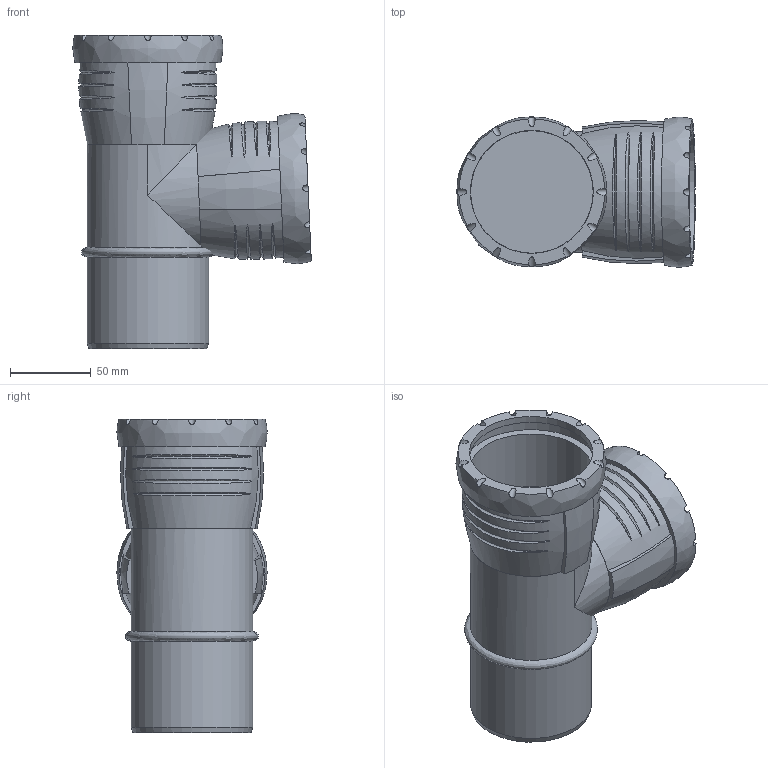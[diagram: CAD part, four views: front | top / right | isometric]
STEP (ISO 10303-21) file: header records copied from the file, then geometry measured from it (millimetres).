
FILE_DESCRIPTION(/* description */ (''),/* implementation_level */ '2;1');
FILE_NAME(/* name */ 'H:\Geberit-Teile\Export\Abzweig PP\stp\393349.stp',/* time_stamp */ '2017-02-13T13:16:53+01:00',/* author */ ('seihe2'),/* organization */ (''),/* preprocessor_version */ 'ST-DEVELOPER v15.2',/* originating_system */ 'Autodesk Inventor 2014',/* authorisation */ '');
FILE_SCHEMA (('AUTOMOTIVE_DESIGN { 1 0 10303 214 3 1 1 }'));
Length unit declared in the file: millimetre
Products named in the file (1): 393349
Bounding box: 147.65 x 92.99 x 194.08 mm (x, y, z)
Volume: 680692.3 mm3; surface area: 152423.9 mm2
Topology: 5 solids, 5 shells, 109 faces, 253 edges, 178 vertices
Faces by surface type: bspline 47, cylinder 42, plane 19, cone 1
Full cylindrical faces by diameter (mm): 58.903 x2, 67.6 x1, 75.2 x3, 75.9 x2, 76.2 x2, 85 x2
Entity records: 7830 total; most frequent: CARTESIAN_POINT 5566, ORIENTED_EDGE 474, DIRECTION 347, EDGE_CURVE 236, VERTEX_POINT 175, AXIS2_PLACEMENT_3D 173, EDGE_LOOP 149, B_SPLINE_CURVE_WITH_KNOTS 122
